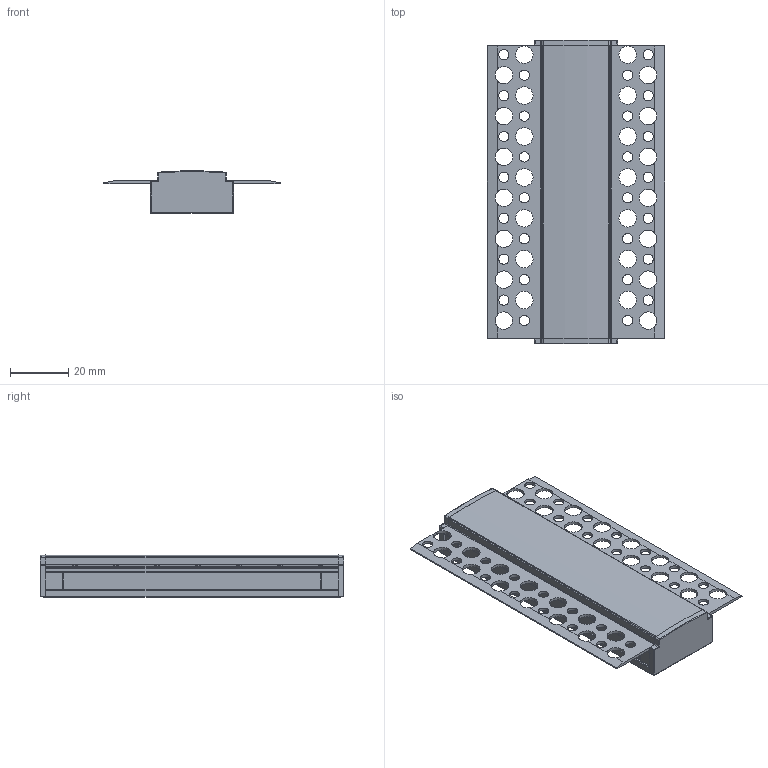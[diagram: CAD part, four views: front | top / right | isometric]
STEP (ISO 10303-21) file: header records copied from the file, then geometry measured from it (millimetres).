
FILE_DESCRIPTION(/* description */ (''),/* implementation_level */ '2;1');
FILE_NAME(/* name */ 'c:\worker\convert-fusion-r02\tmp\job-1\210\output\files\001f3824-e3a5-44ef-b623-526968b63871\d7b99454-c3a5-42f4-92b7-8e8e79d407d0.stp',/* time_stamp */ '2022-03-30T13:58:20+00:00',/* author */ (''),/* organization */ (''),/* preprocessor_version */ 'ST-DEVELOPER v18.1',/* originating_system */ 'Autodesk Translation Framework v10.14.0.1471',/* authorisation */ '');
FILE_SCHEMA (('AUTOMOTIVE_DESIGN { 1 0 10303 214 3 1 1 }'));
Length unit declared in the file: millimetre
Products named in the file (6): 6114_Profile; Aluminium Profile; Light Diffuser / Lens; End Cap; End Cap w/ Cable Out; LED Strip Light
Assembly tree (6 placements, depth 2):
  6114_Profile
    Aluminium Profile
    Light Diffuser / Lens
    End Cap
    End Cap w/ Cable Out
    LED Strip Light  x2
Bounding box: 60.72 x 104.01 x 14.45 mm (x, y, z)
Volume: 16075 mm3; surface area: 30269.5 mm2
Topology: 78 solids, 78 shells, 935 faces, 2217 edges, 1398 vertices
Faces by surface type: plane 464, cylinder 333, sphere 68, bspline 32, torus 24, cone 14
Full cylindrical faces by diameter (mm): 3.5 x28, 4.5 x1, 6 x26
Entity records: 21097 total; most frequent: CARTESIAN_POINT 4156, DIRECTION 3669, ORIENTED_EDGE 3322, EDGE_CURVE 1661, AXIS2_PLACEMENT_3D 1359, VERTEX_POINT 1046, LINE 951, VECTOR 951
